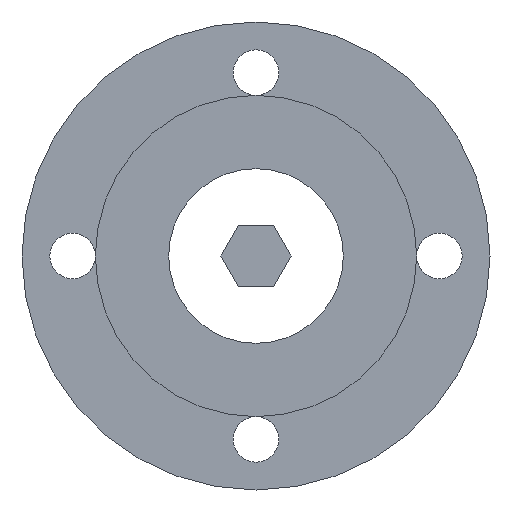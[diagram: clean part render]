
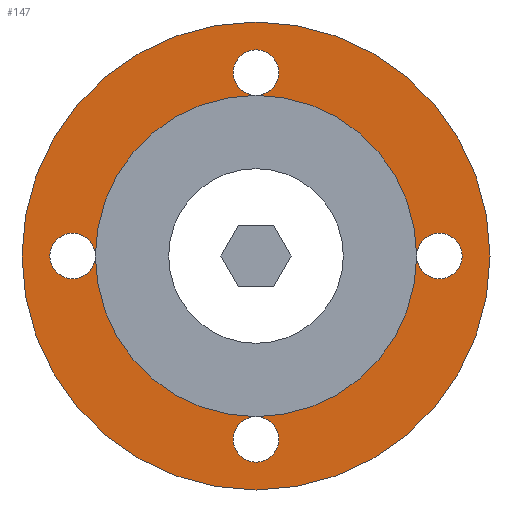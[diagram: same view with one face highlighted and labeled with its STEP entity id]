
A CAD part, front view. The second image highlights one B-rep face of the part: STEP entity #147.
In plain terms, the highlighted planar face has unit normal (0, -1, 0).
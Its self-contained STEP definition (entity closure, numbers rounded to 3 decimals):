
#147 = ADVANCED_FACE( '', ( #268, #269, #270, #271, #272, #273 ), #274, .T. );
#268 = FACE_OUTER_BOUND( '', #370, .T. );
#269 = FACE_BOUND( '', #371, .T. );
#270 = FACE_BOUND( '', #372, .T. );
#271 = FACE_BOUND( '', #373, .T. );
#272 = FACE_BOUND( '', #374, .T. );
#273 = FACE_BOUND( '', #375, .T. );
#274 = PLANE( '', #376 );
#370 = EDGE_LOOP( '', ( #528 ) );
#371 = EDGE_LOOP( '', ( #529 ) );
#372 = EDGE_LOOP( '', ( #530 ) );
#373 = EDGE_LOOP( '', ( #531 ) );
#374 = EDGE_LOOP( '', ( #532 ) );
#375 = EDGE_LOOP( '', ( #533 ) );
#376 = AXIS2_PLACEMENT_3D( '', #534, #535, #536 );
#528 = ORIENTED_EDGE( '', *, *, #549, .T. );
#529 = ORIENTED_EDGE( '', *, *, #559, .T. );
#530 = ORIENTED_EDGE( '', *, *, #591, .F. );
#531 = ORIENTED_EDGE( '', *, *, #551, .F. );
#532 = ORIENTED_EDGE( '', *, *, #600, .F. );
#533 = ORIENTED_EDGE( '', *, *, #567, .F. );
#534 = CARTESIAN_POINT( '', ( 39., 0., 0. ) );
#535 = DIRECTION( '', ( 0., -1., 0. ) );
#536 = DIRECTION( '', ( 0., 0., -1. ) );
#549 = EDGE_CURVE( '', #610, #610, #611, .T. );
#551 = EDGE_CURVE( '', #613, #613, #614, .T. );
#559 = EDGE_CURVE( '', #627, #627, #628, .F. );
#567 = EDGE_CURVE( '', #641, #641, #642, .T. );
#591 = EDGE_CURVE( '', #676, #676, #677, .T. );
#600 = EDGE_CURVE( '', #687, #687, #688, .T. );
#610 = VERTEX_POINT( '', #698 );
#611 = CIRCLE( '', #699, 92.5 );
#613 = VERTEX_POINT( '', #701 );
#614 = CIRCLE( '', #702, 9. );
#627 = VERTEX_POINT( '', #719 );
#628 = CIRCLE( '', #720, 9. );
#641 = VERTEX_POINT( '', #737 );
#642 = CIRCLE( '', #738, 39. );
#676 = VERTEX_POINT( '', #779 );
#677 = CIRCLE( '', #780, 9. );
#687 = VERTEX_POINT( '', #793 );
#688 = CIRCLE( '', #794, 9. );
#698 = CARTESIAN_POINT( '', ( 0., 0., -92.5 ) );
#699 = AXIS2_PLACEMENT_3D( '', #805, #806, #807 );
#701 = CARTESIAN_POINT( '', ( -72.5, 0., -9. ) );
#702 = AXIS2_PLACEMENT_3D( '', #808, #809, #810 );
#719 = CARTESIAN_POINT( '', ( 72.5, 0., -9. ) );
#720 = AXIS2_PLACEMENT_3D( '', #818, #819, #820 );
#737 = CARTESIAN_POINT( '', ( 0., 0., -39. ) );
#738 = AXIS2_PLACEMENT_3D( '', #828, #829, #830 );
#779 = CARTESIAN_POINT( '', ( 0., 0., -81.5 ) );
#780 = AXIS2_PLACEMENT_3D( '', #859, #860, #861 );
#793 = CARTESIAN_POINT( '', ( 0., 0., 63.5 ) );
#794 = AXIS2_PLACEMENT_3D( '', #865, #866, #867 );
#805 = CARTESIAN_POINT( '', ( 0., 0., 0. ) );
#806 = DIRECTION( '', ( 0., -1., 0. ) );
#807 = DIRECTION( '', ( 0., 0., -1. ) );
#808 = CARTESIAN_POINT( '', ( -72.5, 0., 0. ) );
#809 = DIRECTION( '', ( 0., -1., 0. ) );
#810 = DIRECTION( '', ( 0., 0., -1. ) );
#818 = CARTESIAN_POINT( '', ( 72.5, 0., 0. ) );
#819 = DIRECTION( '', ( 0., -1., 0. ) );
#820 = DIRECTION( '', ( 0., 0., -1. ) );
#828 = CARTESIAN_POINT( '', ( 0., 0., 0. ) );
#829 = DIRECTION( '', ( 0., -1., 0. ) );
#830 = DIRECTION( '', ( 0., 0., -1. ) );
#859 = CARTESIAN_POINT( '', ( 0., 0., -72.5 ) );
#860 = DIRECTION( '', ( 0., -1., 0. ) );
#861 = DIRECTION( '', ( 0., 0., -1. ) );
#865 = CARTESIAN_POINT( '', ( 0., 0., 72.5 ) );
#866 = DIRECTION( '', ( 0., -1., 0. ) );
#867 = DIRECTION( '', ( 0., 0., -1. ) );
